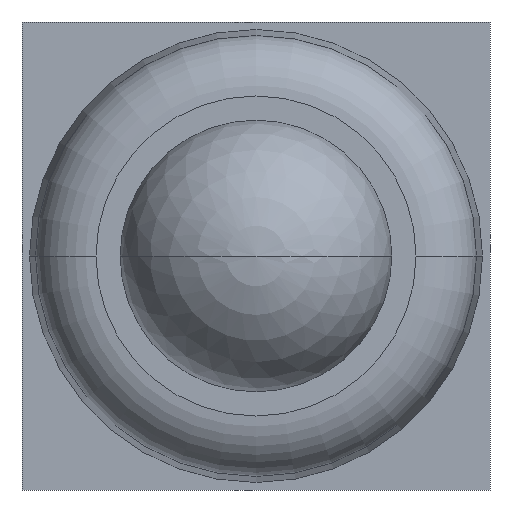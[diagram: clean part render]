
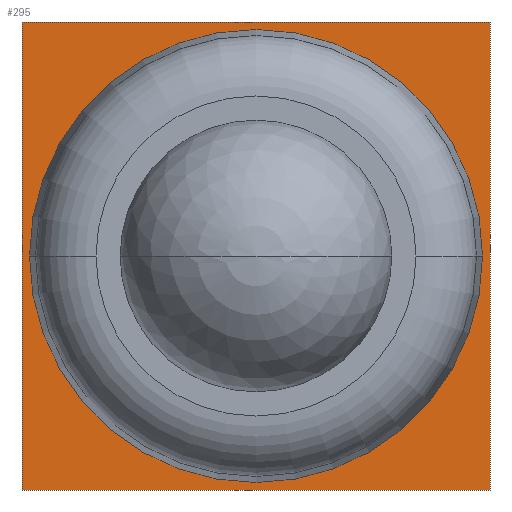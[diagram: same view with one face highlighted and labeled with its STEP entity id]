
A CAD part, left-side view. The second image highlights one B-rep face of the part: STEP entity #295.
In plain terms, the highlighted planar face has unit normal (-1, 0, 0).
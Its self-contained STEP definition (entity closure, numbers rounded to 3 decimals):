
#24=CARTESIAN_POINT('',(-1.5,0.,0.));
#25=DIRECTION('',(1.,0.,0.));
#26=DIRECTION('',(0.,1.,0.));
#27=AXIS2_PLACEMENT_3D('',#24,#25,#26);
#33=CARTESIAN_POINT('',(-1.5,0.,0.));
#34=DIRECTION('',(-1.,0.,0.));
#35=DIRECTION('',(0.,1.,0.));
#36=AXIS2_PLACEMENT_3D('',#33,#34,#35);
#38=DIRECTION('',(0.,0.,1.));
#39=VECTOR('',#38,1.55);
#40=CARTESIAN_POINT('',(-1.5,0.775,-0.775));
#41=LINE('',#40,#39);
#42=DIRECTION('',(0.,-1.,0.));
#43=VECTOR('',#42,1.55);
#44=CARTESIAN_POINT('',(-1.5,0.775,0.775));
#45=LINE('',#44,#43);
#46=DIRECTION('',(0.,0.,-1.));
#47=VECTOR('',#46,1.55);
#48=CARTESIAN_POINT('',(-1.5,-0.775,0.775));
#49=LINE('',#48,#47);
#50=DIRECTION('',(0.,1.,0.));
#51=VECTOR('',#50,1.55);
#52=CARTESIAN_POINT('',(-1.5,-0.775,-0.775));
#53=LINE('',#52,#51);
#186=CARTESIAN_POINT('',(-1.5,0.75,0.));
#187=VERTEX_POINT('',#186);
#200=CARTESIAN_POINT('',(-1.5,-0.75,0.));
#201=VERTEX_POINT('',#200);
#203=CARTESIAN_POINT('',(-1.5,-0.775,-0.775));
#205=VERTEX_POINT('',#203);
#207=CARTESIAN_POINT('',(-1.5,0.775,-0.775));
#209=VERTEX_POINT('',#207);
#211=CARTESIAN_POINT('',(-1.5,0.775,0.775));
#213=VERTEX_POINT('',#211);
#215=CARTESIAN_POINT('',(-1.5,-0.775,0.775));
#217=VERTEX_POINT('',#215);
#276=CARTESIAN_POINT('',(-1.5,0.,0.));
#277=DIRECTION('',(-1.,0.,0.));
#278=DIRECTION('',(0.,1.,0.));
#279=AXIS2_PLACEMENT_3D('',#276,#277,#278);
#280=PLANE('',#279);
#282=ORIENTED_EDGE('',*,*,#281,.T.);
#284=ORIENTED_EDGE('',*,*,#283,.T.);
#286=ORIENTED_EDGE('',*,*,#285,.T.);
#288=ORIENTED_EDGE('',*,*,#287,.T.);
#289=EDGE_LOOP('',(#282,#284,#286,#288));
#290=FACE_OUTER_BOUND('',#289,.F.);
#291=ORIENTED_EDGE('',*,*,#255,.F.);
#292=ORIENTED_EDGE('',*,*,#271,.T.);
#293=EDGE_LOOP('',(#291,#292));
#294=FACE_BOUND('',#293,.F.);
#295=ADVANCED_FACE('',(#290,#294),#280,.T.);
#28=CIRCLE('',#27,0.75);
#37=CIRCLE('',#36,0.75);
#255=EDGE_CURVE('',#187,#201,#28,.T.);
#271=EDGE_CURVE('',#187,#201,#37,.T.);
#281=EDGE_CURVE('',#209,#213,#41,.T.);
#283=EDGE_CURVE('',#213,#217,#45,.T.);
#285=EDGE_CURVE('',#217,#205,#49,.T.);
#287=EDGE_CURVE('',#205,#209,#53,.T.);
